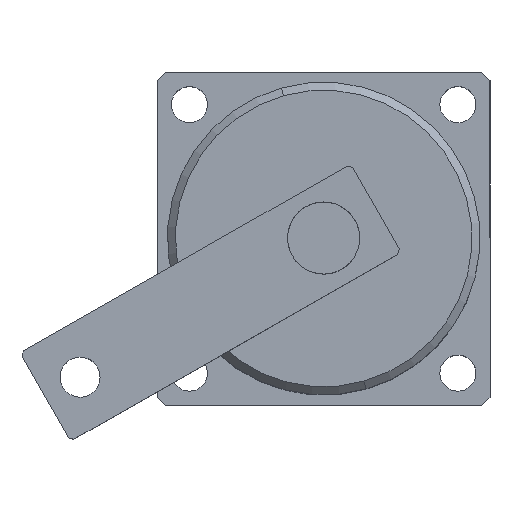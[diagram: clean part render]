
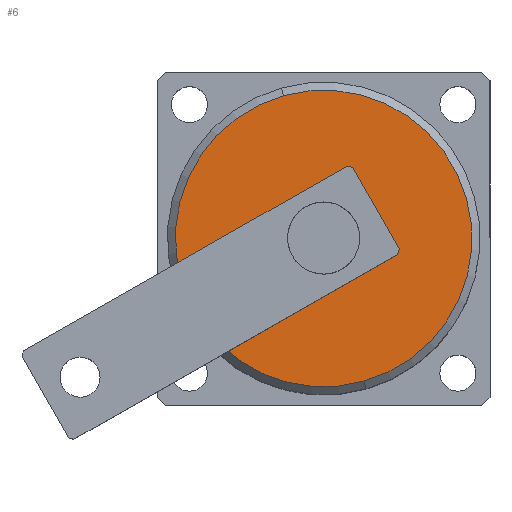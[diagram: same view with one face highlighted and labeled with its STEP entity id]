
A CAD part, top view. The second image highlights one B-rep face of the part: STEP entity #6.
In plain terms, the highlighted planar face has unit normal (0, 0, 1) as drawn and (-1, 0, 0) by its records, which use the part's own axes.
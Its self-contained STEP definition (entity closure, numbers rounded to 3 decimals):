
#3 = ORIENTED_EDGE ( 'NONE', *, *, #4, .F. ) ;
#4 = EDGE_CURVE ( 'NONE', #106, #99, #840, .T. ) ;
#6 = ADVANCED_FACE ( 'NONE', ( #897, #896 ), #895, .F. ) ;
#7 = EDGE_LOOP ( 'NONE', ( #3, #55 ) ) ;
#32 = EDGE_CURVE ( 'NONE', #38, #39, #956, .T. ) ;
#38 = VERTEX_POINT ( 'NONE', #941 ) ;
#39 = VERTEX_POINT ( 'NONE', #940 ) ;
#53 = ORIENTED_EDGE ( 'NONE', *, *, #32, .T. ) ;
#54 = EDGE_CURVE ( 'NONE', #39, #38, #1034, .T. ) ;
#55 = ORIENTED_EDGE ( 'NONE', *, *, #111, .F. ) ;
#57 = EDGE_LOOP ( 'NONE', ( #58, #53 ) ) ;
#58 = ORIENTED_EDGE ( 'NONE', *, *, #54, .T. ) ;
#99 = VERTEX_POINT ( 'NONE', #1092 ) ;
#106 = VERTEX_POINT ( 'NONE', #1139 ) ;
#111 = EDGE_CURVE ( 'NONE', #99, #106, #1136, .T. ) ;
#197 = DIRECTION ( 'NONE',  ( 0., 0., 1. ) ) ;
#198 = DIRECTION ( 'NONE',  ( -1., 0., 0. ) ) ;
#838 = CARTESIAN_POINT ( 'NONE',  ( -57.497, 0., 0. ) ) ;
#839 = AXIS2_PLACEMENT_3D ( 'NONE', #838, #198, #197 ) ;
#840 = CIRCLE ( 'NONE', #839, 10. ) ;
#891 = DIRECTION ( 'NONE',  ( 0., 0., -1. ) ) ;
#892 = DIRECTION ( 'NONE',  ( 1., 0., 0. ) ) ;
#893 = CARTESIAN_POINT ( 'NONE',  ( -57.497, 0., 0. ) ) ;
#894 = AXIS2_PLACEMENT_3D ( 'NONE', #893, #892, #891 ) ;
#895 = PLANE ( 'NONE',  #894 ) ;
#896 = FACE_OUTER_BOUND ( 'NONE', #57, .T. ) ;
#897 = FACE_BOUND ( 'NONE', #7, .T. ) ;
#940 = CARTESIAN_POINT ( 'NONE',  ( -57.497, 0., -37. ) ) ;
#941 = CARTESIAN_POINT ( 'NONE',  ( -57.497, 0., 37. ) ) ;
#952 = DIRECTION ( 'NONE',  ( 0., 0., -1. ) ) ;
#953 = DIRECTION ( 'NONE',  ( -1., 0., 0. ) ) ;
#954 = CARTESIAN_POINT ( 'NONE',  ( -57.497, 0., 0. ) ) ;
#955 = AXIS2_PLACEMENT_3D ( 'NONE', #954, #953, #952 ) ;
#956 = CIRCLE ( 'NONE', #955, 37. ) ;
#1030 = DIRECTION ( 'NONE',  ( 0., 0., -1. ) ) ;
#1031 = DIRECTION ( 'NONE',  ( -1., 0., 0. ) ) ;
#1032 = CARTESIAN_POINT ( 'NONE',  ( -57.497, 0., 0. ) ) ;
#1033 = AXIS2_PLACEMENT_3D ( 'NONE', #1032, #1031, #1030 ) ;
#1034 = CIRCLE ( 'NONE', #1033, 37. ) ;
#1092 = CARTESIAN_POINT ( 'NONE',  ( -57.497, 0., -10. ) ) ;
#1128 = DIRECTION ( 'NONE',  ( 0., 0., 1. ) ) ;
#1129 = DIRECTION ( 'NONE',  ( -1., 0., 0. ) ) ;
#1130 = CARTESIAN_POINT ( 'NONE',  ( -57.497, 0., 0. ) ) ;
#1131 = AXIS2_PLACEMENT_3D ( 'NONE', #1130, #1129, #1128 ) ;
#1136 = CIRCLE ( 'NONE', #1131, 10. ) ;
#1139 = CARTESIAN_POINT ( 'NONE',  ( -57.497, 0., 10. ) ) ;
